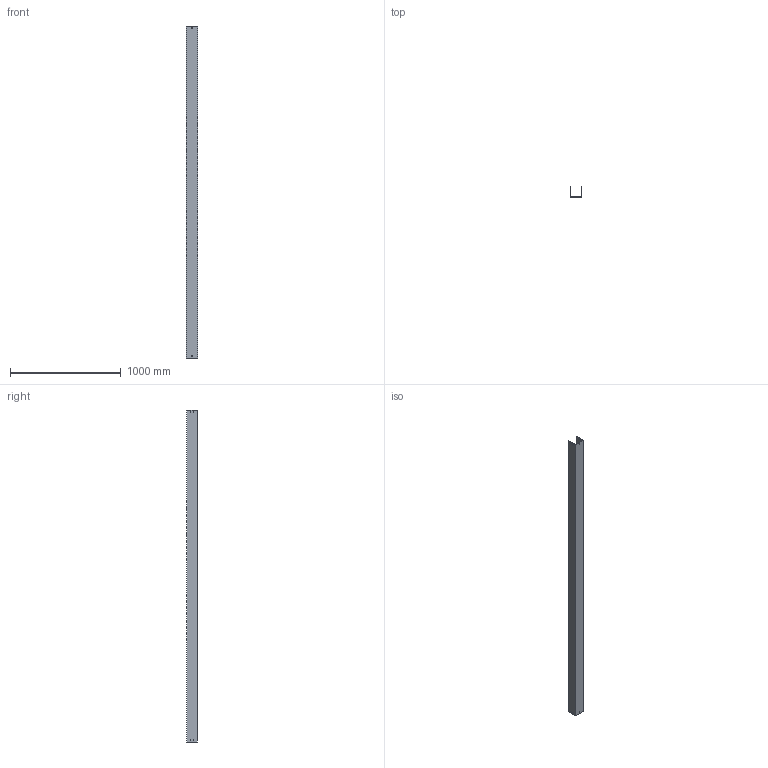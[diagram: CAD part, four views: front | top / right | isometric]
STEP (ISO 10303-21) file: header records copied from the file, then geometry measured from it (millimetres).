
FILE_DESCRIPTION (( 'STEP AP214' ), '1' );
FILE_NAME ('03B3I100.step', '2025-02-21T10:27:18', ( '' ), ( '' ), 'SwSTEP 2.0', 'SolidWorks 2023', '' );
FILE_SCHEMA (( 'AUTOMOTIVE_DESIGN' ));
Length unit declared in the file: millimetre
Products named in the file (1): 03B3I100
Bounding box: 104 x 92.5 x 3000 mm (x, y, z)
Volume: 2958630.5 mm3; surface area: 1714789 mm2
Topology: 1 solids, 1 shells, 50 faces, 144 edges, 96 vertices
Faces by surface type: plane 50
Entity records: 1671 total; most frequent: CARTESIAN_POINT 291, ORIENTED_EDGE 288, DIRECTION 246, EDGE_CURVE 144, LINE 144, VECTOR 144, VERTEX_POINT 96, EDGE_LOOP 70
